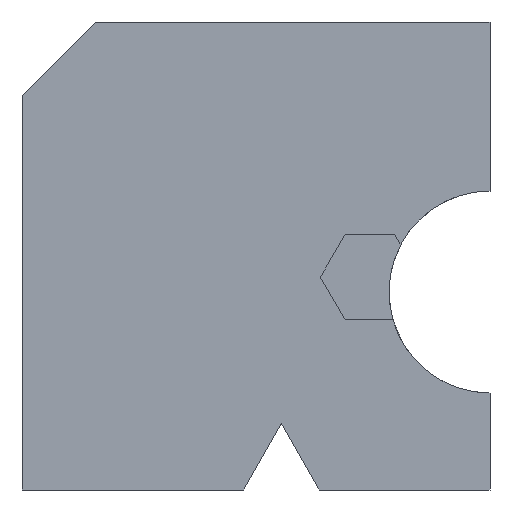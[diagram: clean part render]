
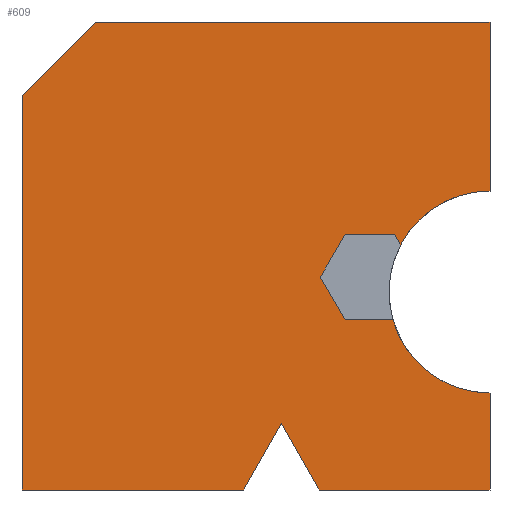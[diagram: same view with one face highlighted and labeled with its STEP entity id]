
A CAD part, front view. The second image highlights one B-rep face of the part: STEP entity #609.
In plain terms, the highlighted planar face has unit normal (0, -1, 0).
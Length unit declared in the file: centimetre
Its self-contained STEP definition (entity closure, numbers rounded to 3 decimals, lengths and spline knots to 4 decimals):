
#1 = ORIENTED_EDGE ( 'NONE', *, *, #242, .T. ) ;
#4 = ORIENTED_EDGE ( 'NONE', *, *, #846, .F. ) ;
#5 = EDGE_CURVE ( 'NONE', #440, #749, #471, .T. ) ;
#52 = DIRECTION ( 'NONE',  ( 1., 0., 0. ) ) ;
#63 = VERTEX_POINT ( 'NONE', #895 ) ;
#67 = VECTOR ( 'NONE', #603, 100. ) ;
#73 = LINE ( 'NONE', #166, #270 ) ;
#80 = VERTEX_POINT ( 'NONE', #306 ) ;
#81 = LINE ( 'NONE', #87, #251 ) ;
#87 = CARTESIAN_POINT ( 'NONE',  ( 473.5863, 0., 0. ) ) ;
#90 = CARTESIAN_POINT ( 'NONE',  ( 637.5788, 0., 454.7861 ) ) ;
#96 = LINE ( 'NONE', #572, #295 ) ;
#102 = EDGE_CURVE ( 'NONE', #754, #504, #788, .T. ) ;
#109 = DIRECTION ( 'NONE',  ( -0.5, 0., -0.866 ) ) ;
#112 = CARTESIAN_POINT ( 'NONE',  ( 1000., 0., 0. ) ) ;
#114 = AXIS2_PLACEMENT_3D ( 'NONE', #119, #1190, #604 ) ;
#119 = CARTESIAN_POINT ( 'NONE',  ( 0., 0., 1000. ) ) ;
#139 = DIRECTION ( 'NONE',  ( 0., 0., -1. ) ) ;
#155 = ORIENTED_EDGE ( 'NONE', *, *, #299, .F. ) ;
#160 = DIRECTION ( 'NONE',  ( 1., 0., 0. ) ) ;
#166 = CARTESIAN_POINT ( 'NONE',  ( 0., 0., 0. ) ) ;
#173 = VERTEX_POINT ( 'NONE', #1129 ) ;
#184 = DIRECTION ( 'NONE',  ( 0., 0., -1. ) ) ;
#194 = DIRECTION ( 'NONE',  ( 0., -1., 0. ) ) ;
#216 = LINE ( 'NONE', #887, #67 ) ;
#222 = CARTESIAN_POINT ( 'NONE',  ( 690.3399, 0., 546.1449 ) ) ;
#230 = VECTOR ( 'NONE', #360, 100. ) ;
#236 = CARTESIAN_POINT ( 'NONE',  ( 1000., 0., 423.026 ) ) ;
#242 = EDGE_CURVE ( 'NONE', #1265, #391, #451, .T. ) ;
#251 = VECTOR ( 'NONE', #1260, 100. ) ;
#265 = LINE ( 'NONE', #950, #883 ) ;
#270 = VECTOR ( 'NONE', #160, 100. ) ;
#280 = CARTESIAN_POINT ( 'NONE',  ( 795.847, 0., 546.1449 ) ) ;
#285 = EDGE_CURVE ( 'NONE', #391, #749, #73, .T. ) ;
#291 = VERTEX_POINT ( 'NONE', #355 ) ;
#292 = DIRECTION ( 'NONE',  ( 0., 0., -1. ) ) ;
#295 = VECTOR ( 'NONE', #876, 100. ) ;
#299 = EDGE_CURVE ( 'NONE', #1076, #754, #1126, .T. ) ;
#306 = CARTESIAN_POINT ( 'NONE',  ( 156.5563, 0., 1000. ) ) ;
#310 = PLANE ( 'NONE',  #114 ) ;
#311 = VECTOR ( 'NONE', #735, 100. ) ;
#325 = VERTEX_POINT ( 'NONE', #644 ) ;
#341 = EDGE_CURVE ( 'NONE', #80, #469, #629, .T. ) ;
#349 = CARTESIAN_POINT ( 'NONE',  ( 554.1198, 0., 142.2964 ) ) ;
#355 = CARTESIAN_POINT ( 'NONE',  ( 473.5863, 0., 0. ) ) ;
#357 = VECTOR ( 'NONE', #52, 100. ) ;
#360 = DIRECTION ( 'NONE',  ( 1., 0., 0. ) ) ;
#363 = VERTEX_POINT ( 'NONE', #638 ) ;
#382 = ORIENTED_EDGE ( 'NONE', *, *, #1153, .F. ) ;
#391 = VERTEX_POINT ( 'NONE', #475 ) ;
#398 = CARTESIAN_POINT ( 'NONE',  ( 1000., 0., 1000. ) ) ;
#402 = ORIENTED_EDGE ( 'NONE', *, *, #285, .T. ) ;
#410 = FACE_OUTER_BOUND ( 'NONE', #1236, .T. ) ;
#425 = ORIENTED_EDGE ( 'NONE', *, *, #102, .F. ) ;
#426 = DIRECTION ( 'NONE',  ( 0.5, 0., -0.866 ) ) ;
#440 = VERTEX_POINT ( 'NONE', #964 ) ;
#451 = LINE ( 'NONE', #349, #311 ) ;
#456 = CIRCLE ( 'NONE', #1251, 215.8482 ) ;
#469 = VERTEX_POINT ( 'NONE', #1056 ) ;
#471 = LINE ( 'NONE', #782, #693 ) ;
#475 = CARTESIAN_POINT ( 'NONE',  ( 634.6534, 0., 0. ) ) ;
#476 = EDGE_CURVE ( 'NONE', #63, #1076, #96, .T. ) ;
#504 = VERTEX_POINT ( 'NONE', #90 ) ;
#535 = ORIENTED_EDGE ( 'NONE', *, *, #975, .F. ) ;
#543 = CARTESIAN_POINT ( 'NONE',  ( 795.847, 0., 546.1449 ) ) ;
#552 = AXIS2_PLACEMENT_3D ( 'NONE', #583, #194, #292 ) ;
#564 = LINE ( 'NONE', #398, #1186 ) ;
#572 = CARTESIAN_POINT ( 'NONE',  ( 848.5931, 0., 454.7861 ) ) ;
#583 = CARTESIAN_POINT ( 'NONE',  ( 1000., 0., 423.026 ) ) ;
#595 = CARTESIAN_POINT ( 'NONE',  ( 637.5788, 0., 454.7861 ) ) ;
#603 = DIRECTION ( 'NONE',  ( 1., 0., 0. ) ) ;
#604 = DIRECTION ( 'NONE',  ( 0., 0., 1. ) ) ;
#609 = ADVANCED_FACE ( 'NONE', ( #410 ), #310, .F. ) ;
#613 = VECTOR ( 'NONE', #139, 100. ) ;
#616 = LINE ( 'NONE', #595, #623 ) ;
#622 = DIRECTION ( 'NONE',  ( 0., -1., 0. ) ) ;
#623 = VECTOR ( 'NONE', #426, 100. ) ;
#627 = CARTESIAN_POINT ( 'NONE',  ( 792.548, 0., 363.4099 ) ) ;
#629 = LINE ( 'NONE', #1023, #357 ) ;
#634 = CARTESIAN_POINT ( 'NONE',  ( 690.3399, 0., 363.4099 ) ) ;
#638 = CARTESIAN_POINT ( 'NONE',  ( 0., 0., 843.4437 ) ) ;
#644 = CARTESIAN_POINT ( 'NONE',  ( 0., 0., 0. ) ) ;
#647 = LINE ( 'NONE', #634, #230 ) ;
#661 = CARTESIAN_POINT ( 'NONE',  ( 1000., 0., 638.8742 ) ) ;
#688 = ORIENTED_EDGE ( 'NONE', *, *, #729, .F. ) ;
#693 = VECTOR ( 'NONE', #184, 100. ) ;
#703 = LINE ( 'NONE', #1015, #613 ) ;
#729 = EDGE_CURVE ( 'NONE', #504, #173, #616, .T. ) ;
#735 = DIRECTION ( 'NONE',  ( 0.493, 0., -0.87 ) ) ;
#749 = VERTEX_POINT ( 'NONE', #112 ) ;
#754 = VERTEX_POINT ( 'NONE', #222 ) ;
#777 = ORIENTED_EDGE ( 'NONE', *, *, #864, .T. ) ;
#782 = CARTESIAN_POINT ( 'NONE',  ( 1000., 0., 1000. ) ) ;
#788 = LINE ( 'NONE', #796, #1069 ) ;
#796 = CARTESIAN_POINT ( 'NONE',  ( 690.3399, 0., 546.1449 ) ) ;
#846 = EDGE_CURVE ( 'NONE', #1135, #63, #456, .T. ) ;
#853 = EDGE_CURVE ( 'NONE', #363, #325, #703, .T. ) ;
#864 = EDGE_CURVE ( 'NONE', #325, #291, #216, .T. ) ;
#867 = DIRECTION ( 'NONE',  ( -0.707, 0., -0.707 ) ) ;
#876 = DIRECTION ( 'NONE',  ( -0.5, 0., 0.866 ) ) ;
#883 = VECTOR ( 'NONE', #867, 100. ) ;
#884 = VERTEX_POINT ( 'NONE', #627 ) ;
#887 = CARTESIAN_POINT ( 'NONE',  ( 0., 0., 0. ) ) ;
#895 = CARTESIAN_POINT ( 'NONE',  ( 808.9426, 0., 523.4626 ) ) ;
#904 = ORIENTED_EDGE ( 'NONE', *, *, #853, .T. ) ;
#919 = DIRECTION ( 'NONE',  ( -1., 0., 0. ) ) ;
#922 = VECTOR ( 'NONE', #919, 100. ) ;
#928 = ORIENTED_EDGE ( 'NONE', *, *, #1087, .T. ) ;
#931 = ORIENTED_EDGE ( 'NONE', *, *, #476, .F. ) ;
#950 = CARTESIAN_POINT ( 'NONE',  ( 156.5563, 0., 1000. ) ) ;
#964 = CARTESIAN_POINT ( 'NONE',  ( 1000., 0., 207.1778 ) ) ;
#975 = EDGE_CURVE ( 'NONE', #173, #884, #647, .T. ) ;
#1015 = CARTESIAN_POINT ( 'NONE',  ( 0., 0., 1000. ) ) ;
#1023 = CARTESIAN_POINT ( 'NONE',  ( 0., 0., 1000. ) ) ;
#1037 = ORIENTED_EDGE ( 'NONE', *, *, #1039, .T. ) ;
#1039 = EDGE_CURVE ( 'NONE', #80, #363, #265, .T. ) ;
#1045 = CIRCLE ( 'NONE', #552, 215.8482 ) ;
#1056 = CARTESIAN_POINT ( 'NONE',  ( 1000., 0., 1000. ) ) ;
#1069 = VECTOR ( 'NONE', #109, 100. ) ;
#1076 = VERTEX_POINT ( 'NONE', #280 ) ;
#1077 = CARTESIAN_POINT ( 'NONE',  ( 554.1198, 0., 142.2964 ) ) ;
#1087 = EDGE_CURVE ( 'NONE', #291, #1265, #81, .T. ) ;
#1126 = LINE ( 'NONE', #543, #922 ) ;
#1129 = CARTESIAN_POINT ( 'NONE',  ( 690.3399, 0., 363.4099 ) ) ;
#1135 = VERTEX_POINT ( 'NONE', #661 ) ;
#1144 = ORIENTED_EDGE ( 'NONE', *, *, #1233, .F. ) ;
#1153 = EDGE_CURVE ( 'NONE', #469, #1135, #564, .T. ) ;
#1186 = VECTOR ( 'NONE', #1262, 100. ) ;
#1190 = DIRECTION ( 'NONE',  ( 0., 1., 0. ) ) ;
#1196 = DIRECTION ( 'NONE',  ( 0., 0., -1. ) ) ;
#1233 = EDGE_CURVE ( 'NONE', #884, #440, #1045, .T. ) ;
#1236 = EDGE_LOOP ( 'NONE', ( #928, #1, #402, #1246, #1144, #535, #688, #425, #155, #931, #4, #382, #1238, #1037, #904, #777 ) ) ;
#1238 = ORIENTED_EDGE ( 'NONE', *, *, #341, .F. ) ;
#1246 = ORIENTED_EDGE ( 'NONE', *, *, #5, .F. ) ;
#1251 = AXIS2_PLACEMENT_3D ( 'NONE', #236, #622, #1196 ) ;
#1260 = DIRECTION ( 'NONE',  ( 0.493, 0., 0.87 ) ) ;
#1262 = DIRECTION ( 'NONE',  ( 0., 0., -1. ) ) ;
#1265 = VERTEX_POINT ( 'NONE', #1077 ) ;
